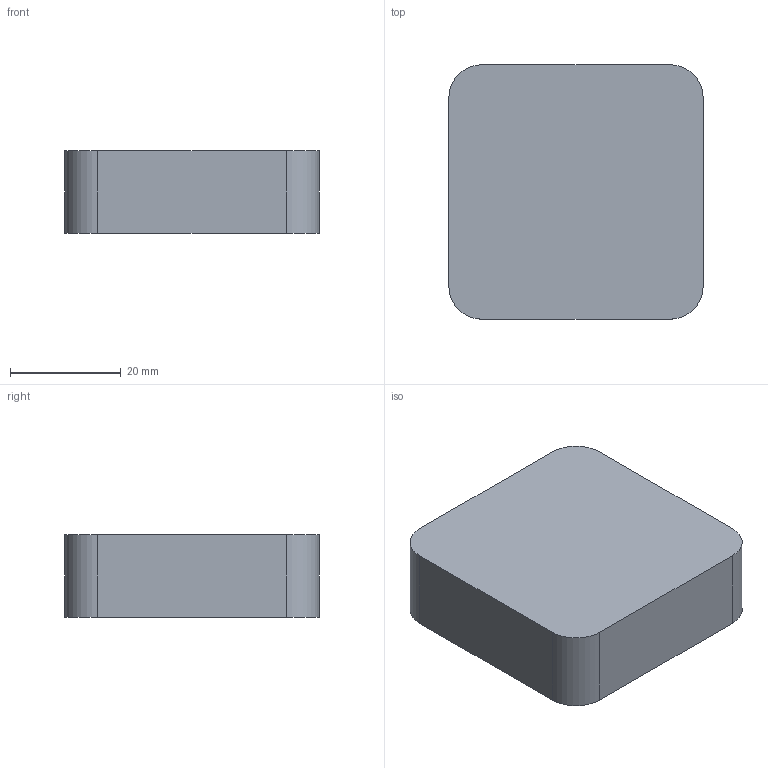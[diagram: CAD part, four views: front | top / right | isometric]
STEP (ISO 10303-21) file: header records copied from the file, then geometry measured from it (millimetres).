
FILE_DESCRIPTION(('Open CASCADE Model'),'2;1');
FILE_NAME('Open CASCADE Shape Model','2026-09-19T16:36:15',('Author'),( 'Open CASCADE'),'Open CASCADE STEP processor 7.8','Open CASCADE 7.8' ,'Unknown');
FILE_SCHEMA(('AUTOMOTIVE_DESIGN { 1 0 10303 214 1 1 1 1 }'));
Length unit declared in the file: millimetre
Products named in the file (1): Open CASCADE STEP translator 7.8 16
Bounding box: 46 x 46 x 15 mm (x, y, z)
Volume: 31276.5 mm3; surface area: 6775.7 mm2
Topology: 1 solids, 1 shells, 10 faces, 24 edges, 16 vertices
Faces by surface type: plane 6, cylinder 4
Entity records: 630 total; most frequent: CARTESIAN_POINT 123, DIRECTION 98, LINE 56, VECTOR 56, ORIENTED_EDGE 48, PCURVE 48, DEFINITIONAL_REPRESENTATION 48, EDGE_CURVE 24
